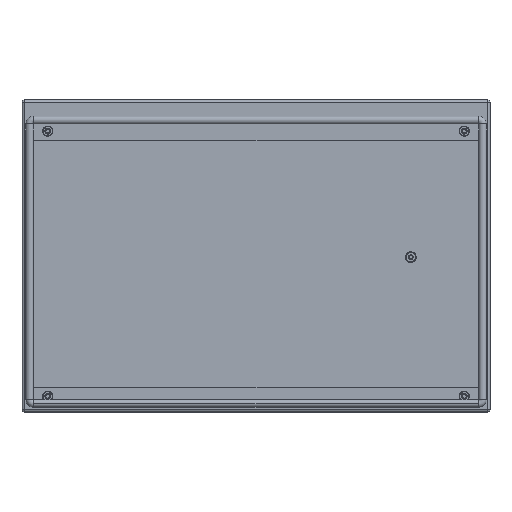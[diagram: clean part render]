
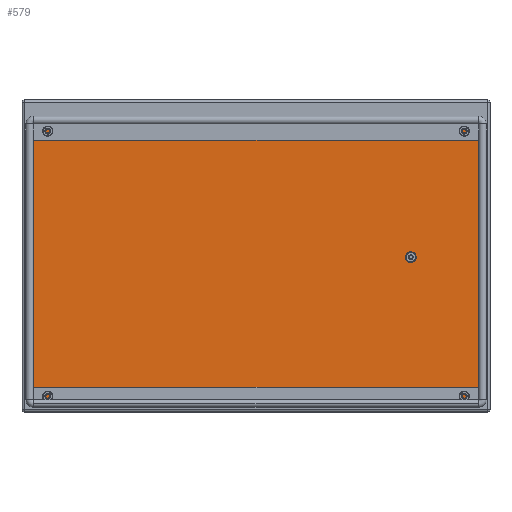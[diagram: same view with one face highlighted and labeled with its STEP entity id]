
A CAD part, top view. The second image highlights one B-rep face of the part: STEP entity #579.
In plain terms, the highlighted planar face has unit normal (0, 0, 1).
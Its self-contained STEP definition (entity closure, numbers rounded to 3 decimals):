
#259 = CIRCLE ( 'NONE', #4216, 4. ) ;
#267 = CIRCLE ( 'NONE', #4214, 3. ) ;
#291 = CIRCLE ( 'NONE', #3898, 3. ) ;
#338 = CIRCLE ( 'NONE', #3891, 4. ) ;
#426 = CIRCLE ( 'NONE', #3974, 3. ) ;
#469 = EDGE_CURVE ( 'NONE', #3439, #3434, #647, .T. ) ;
#502 = EDGE_CURVE ( 'NONE', #3446, #3443, #2622, .T. ) ;
#579 = ADVANCED_FACE ( 'NONE', ( #4182, #4177 ), #3116, .T. ) ;
#603 = EDGE_CURVE ( 'NONE', #3434, #3436, #3055, .T. ) ;
#605 = EDGE_CURVE ( 'NONE', #3442, #3446, #267, .T. ) ;
#608 = EDGE_CURVE ( 'NONE', #3387, #3403, #259, .T. ) ;
#647 = CIRCLE ( 'NONE', #4053, 3. ) ;
#682 = EDGE_CURVE ( 'NONE', #3488, #3439, #3288, .T. ) ;
#718 = EDGE_CURVE ( 'NONE', #3403, #3387, #338, .T. ) ;
#726 = EDGE_CURVE ( 'NONE', #3443, #3488, #291, .T. ) ;
#791 = EDGE_CURVE ( 'NONE', #3436, #3435, #426, .T. ) ;
#797 = EDGE_CURVE ( 'NONE', #3435, #3442, #2919, .T. ) ;
#1024 = ORIENTED_EDGE ( 'NONE', *, *, #797, .T. ) ;
#1069 = ORIENTED_EDGE ( 'NONE', *, *, #791, .T. ) ;
#1232 = ORIENTED_EDGE ( 'NONE', *, *, #502, .T. ) ;
#1240 = ORIENTED_EDGE ( 'NONE', *, *, #605, .T. ) ;
#1288 = ORIENTED_EDGE ( 'NONE', *, *, #608, .T. ) ;
#1461 = EDGE_LOOP ( 'NONE', ( #2027, #2002, #1981, #1069, #1024, #1240, #1232, #1601 ) ) ;
#1471 = EDGE_LOOP ( 'NONE', ( #1288, #1614 ) ) ;
#1601 = ORIENTED_EDGE ( 'NONE', *, *, #726, .T. ) ;
#1614 = ORIENTED_EDGE ( 'NONE', *, *, #718, .T. ) ;
#1981 = ORIENTED_EDGE ( 'NONE', *, *, #603, .T. ) ;
#2002 = ORIENTED_EDGE ( 'NONE', *, *, #469, .T. ) ;
#2027 = ORIENTED_EDGE ( 'NONE', *, *, #682, .T. ) ;
#2171 = CARTESIAN_POINT ( 'NONE',  ( -295.5, 195.5, 0. ) ) ;
#2175 = DIRECTION ( 'NONE',  ( 0., 0., 1. ) ) ;
#2177 = CARTESIAN_POINT ( 'NONE',  ( -298.5, 195.5, 0. ) ) ;
#2298 = CARTESIAN_POINT ( 'NONE',  ( 198.5, -1.5, 0. ) ) ;
#2300 = DIRECTION ( 'NONE',  ( -1., 0., 0. ) ) ;
#2302 = DIRECTION ( 'NONE',  ( 0., 0., -1. ) ) ;
#2363 = CARTESIAN_POINT ( 'NONE',  ( 295.5, 198.5, 0. ) ) ;
#2374 = CARTESIAN_POINT ( 'NONE',  ( -295.5, 198.5, 0. ) ) ;
#2377 = CARTESIAN_POINT ( 'NONE',  ( 298.5, 195.5, 0. ) ) ;
#2384 = CARTESIAN_POINT ( 'NONE',  ( -298.5, -195.5, 0. ) ) ;
#2396 = CARTESIAN_POINT ( 'NONE',  ( 295.5, -198.5, 0. ) ) ;
#2398 = CARTESIAN_POINT ( 'NONE',  ( 298.5, -195.5, 0. ) ) ;
#2403 = CARTESIAN_POINT ( 'NONE',  ( -295.5, -198.5, 0. ) ) ;
#2506 = CARTESIAN_POINT ( 'NONE',  ( -295.5, -195.5, 0. ) ) ;
#2514 = DIRECTION ( 'NONE',  ( 0., 0., 1. ) ) ;
#2515 = DIRECTION ( 'NONE',  ( 1., 0., 0. ) ) ;
#2622 = LINE ( 'NONE', #2626, #4108 ) ;
#2624 = DIRECTION ( 'NONE',  ( -1., 0., 0. ) ) ;
#2626 = CARTESIAN_POINT ( 'NONE',  ( 300., 198.5, 0. ) ) ;
#2872 = CARTESIAN_POINT ( 'NONE',  ( 295.5, -195.5, 0. ) ) ;
#2874 = DIRECTION ( 'NONE',  ( 0., 0., 1. ) ) ;
#2877 = DIRECTION ( 'NONE',  ( 1., 0., 0. ) ) ;
#2919 = LINE ( 'NONE', #3166, #3986 ) ;
#2951 = CARTESIAN_POINT ( 'NONE',  ( 194.5, -1.5, 0. ) ) ;
#2976 = DIRECTION ( 'NONE',  ( 1., 0., 0. ) ) ;
#3021 = DIRECTION ( 'NONE',  ( 1., 0., 0. ) ) ;
#3026 = DIRECTION ( 'NONE',  ( 1., 0., 0. ) ) ;
#3029 = CARTESIAN_POINT ( 'NONE',  ( 295.5, 195.5, 0. ) ) ;
#3030 = DIRECTION ( 'NONE',  ( 0., 0., 1. ) ) ;
#3031 = DIRECTION ( 'NONE',  ( 1., 0., 0. ) ) ;
#3035 = CARTESIAN_POINT ( 'NONE',  ( 198.5, -1.5, 0. ) ) ;
#3038 = CARTESIAN_POINT ( 'NONE',  ( 202.5, -1.5, 0. ) ) ;
#3055 = LINE ( 'NONE', #3059, #4217 ) ;
#3059 = CARTESIAN_POINT ( 'NONE',  ( 300., -198.5, 0. ) ) ;
#3116 = PLANE ( 'NONE',  #4187 ) ;
#3118 = CARTESIAN_POINT ( 'NONE',  ( 0., 0., 0. ) ) ;
#3121 = DIRECTION ( 'NONE',  ( 0., 0., 1. ) ) ;
#3123 = DIRECTION ( 'NONE',  ( -1., 0., 0. ) ) ;
#3136 = DIRECTION ( 'NONE',  ( 0., 0., -1. ) ) ;
#3166 = CARTESIAN_POINT ( 'NONE',  ( 298.5, -200., 0. ) ) ;
#3195 = DIRECTION ( 'NONE',  ( 0., 1., 0. ) ) ;
#3284 = DIRECTION ( 'NONE',  ( 0., -1., 0. ) ) ;
#3286 = CARTESIAN_POINT ( 'NONE',  ( -298.5, -200., 0. ) ) ;
#3288 = LINE ( 'NONE', #3286, #3843 ) ;
#3387 = VERTEX_POINT ( 'NONE', #3038 ) ;
#3403 = VERTEX_POINT ( 'NONE', #2951 ) ;
#3434 = VERTEX_POINT ( 'NONE', #2403 ) ;
#3435 = VERTEX_POINT ( 'NONE', #2398 ) ;
#3436 = VERTEX_POINT ( 'NONE', #2396 ) ;
#3439 = VERTEX_POINT ( 'NONE', #2384 ) ;
#3442 = VERTEX_POINT ( 'NONE', #2377 ) ;
#3443 = VERTEX_POINT ( 'NONE', #2374 ) ;
#3446 = VERTEX_POINT ( 'NONE', #2363 ) ;
#3488 = VERTEX_POINT ( 'NONE', #2177 ) ;
#3843 = VECTOR ( 'NONE', #3284, 1000. ) ;
#3891 = AXIS2_PLACEMENT_3D ( 'NONE', #2298, #2302, #2300 ) ;
#3898 = AXIS2_PLACEMENT_3D ( 'NONE', #2171, #2175, #2976 ) ;
#3974 = AXIS2_PLACEMENT_3D ( 'NONE', #2872, #2874, #2877 ) ;
#3986 = VECTOR ( 'NONE', #3195, 1000. ) ;
#4053 = AXIS2_PLACEMENT_3D ( 'NONE', #2506, #2514, #2515 ) ;
#4108 = VECTOR ( 'NONE', #2624, 1000. ) ;
#4177 = FACE_BOUND ( 'NONE', #1471, .T. ) ;
#4182 = FACE_OUTER_BOUND ( 'NONE', #1461, .T. ) ;
#4187 = AXIS2_PLACEMENT_3D ( 'NONE', #3118, #3121, #3021 ) ;
#4214 = AXIS2_PLACEMENT_3D ( 'NONE', #3029, #3030, #3031 ) ;
#4216 = AXIS2_PLACEMENT_3D ( 'NONE', #3035, #3136, #3123 ) ;
#4217 = VECTOR ( 'NONE', #3026, 1000. ) ;
